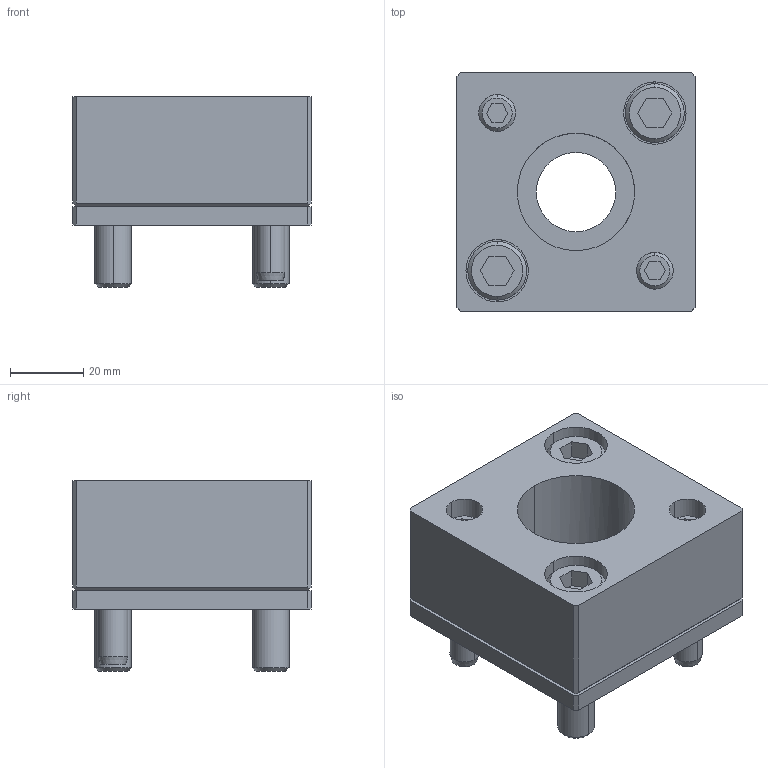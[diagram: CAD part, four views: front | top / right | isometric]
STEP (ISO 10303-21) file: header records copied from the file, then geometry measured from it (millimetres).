
FILE_DESCRIPTION(/* description */ (''),/* implementation_level */ '2;1');
FILE_NAME(/* name */ '3d_sr-fd32_05472_r00.stp',/* time_stamp */ '2011-01-10T14:09:58+09:00',/* author */ ('MISUMI'),/* organization */ (''),/* preprocessor_version */ 'ST-DEVELOPER v11',/* originating_system */ 'UGS - NX 5.0',/* authorisation */ '');
FILE_SCHEMA (('CONFIG_CONTROL_DESIGN'));
Length unit declared in the file: millimetre
Products named in the file (1): 3d_sr-fd32_05472_r00
Bounding box: 65 x 65 x 52 mm (x, y, z)
Volume: 119751.1 mm3; surface area: 37875.8 mm2
Topology: 8 solids, 8 shells, 159 faces, 364 edges, 235 vertices
Faces by surface type: plane 78, cylinder 55, cone 26
Entity records: 4634 total; most frequent: DIRECTION 814, CARTESIAN_POINT 804, ORIENTED_EDGE 728, EDGE_CURVE 364, AXIS2_PLACEMENT_3D 297, VERTEX_POINT 235, LINE 220, VECTOR 220
